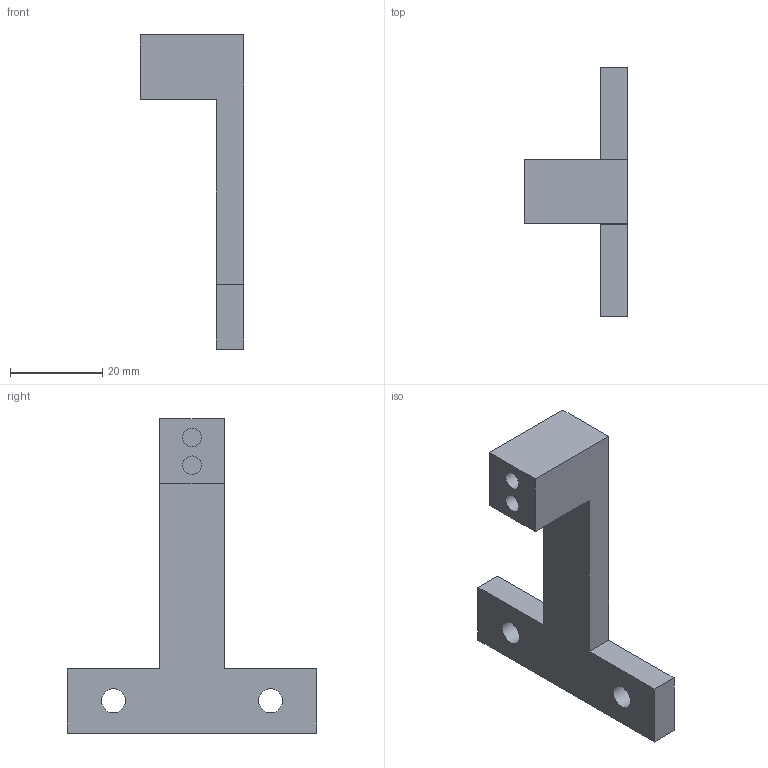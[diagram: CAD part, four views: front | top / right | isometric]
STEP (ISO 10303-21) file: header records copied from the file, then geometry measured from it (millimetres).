
FILE_DESCRIPTION(('Open CASCADE Model'),'2;1');
FILE_NAME('Open CASCADE Shape Model','2026-10-15T20:36:14',('Author'),( 'Open CASCADE'),'Open CASCADE STEP processor 7.9','Open CASCADE 7.9' ,'Unknown');
FILE_SCHEMA(('AUTOMOTIVE_DESIGN { 1 0 10303 214 1 1 1 1 }'));
Length unit declared in the file: millimetre
Products named in the file (1): Open CASCADE STEP translator 7.9 5
Bounding box: 22.5 x 54 x 68 mm (x, y, z)
Volume: 11825 mm3; surface area: 5749.3 mm2
Topology: 1 solids, 1 shells, 18 faces, 42 edges, 28 vertices
Faces by surface type: plane 14, cylinder 4
Full cylindrical faces by diameter (mm): 4 x2, 5.2 x2
Entity records: 1096 total; most frequent: CARTESIAN_POINT 209, DIRECTION 166, LINE 110, VECTOR 110, ORIENTED_EDGE 84, PCURVE 84, DEFINITIONAL_REPRESENTATION 84, EDGE_CURVE 42
